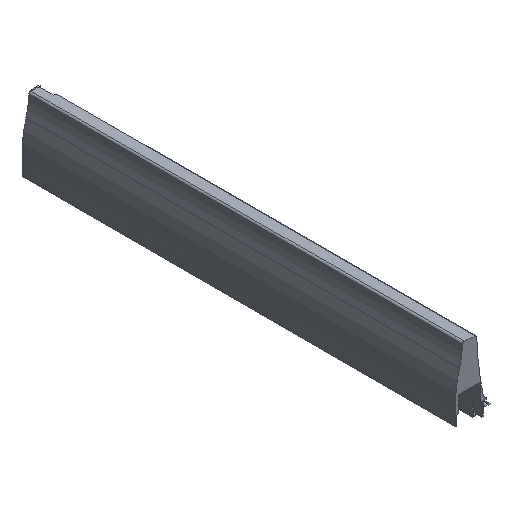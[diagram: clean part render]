
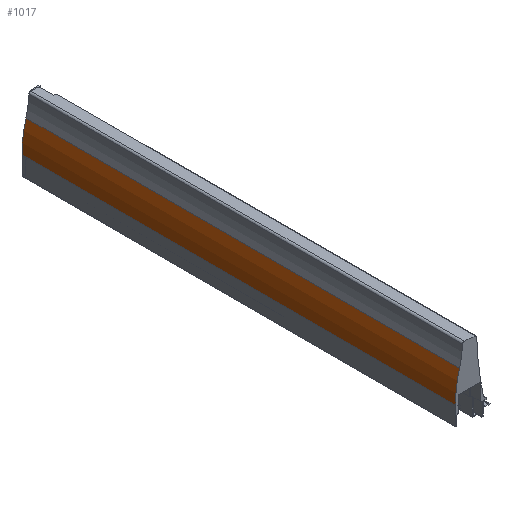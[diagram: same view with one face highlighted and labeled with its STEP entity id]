
A CAD part, isometric view. The second image highlights one B-rep face of the part: STEP entity #1017.
In plain terms, the highlighted cylindrical face has radius 130.3 mm (diameter 260.6 mm), a partial arc.
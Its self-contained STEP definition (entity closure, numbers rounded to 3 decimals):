
#109 = CARTESIAN_POINT ( 'NONE',  ( 0.401, 0., 26.255 ) ) ;
#110 = CARTESIAN_POINT ( 'NONE',  ( -4.1, 0., -7.695 ) ) ;
#134 = CARTESIAN_POINT ( 'NONE',  ( 0.401, 490., 26.255 ) ) ;
#303 = CARTESIAN_POINT ( 'NONE',  ( -4.1, 490., -7.695 ) ) ;
#428 = VERTEX_POINT ( 'NONE', #303 ) ;
#525 = VERTEX_POINT ( 'NONE', #134 ) ;
#639 = VERTEX_POINT ( 'NONE', #109 ) ;
#640 = VERTEX_POINT ( 'NONE', #110 ) ;
#694 = DIRECTION ( 'NONE',  ( -1., 0., 0. ) ) ;
#695 = DIRECTION ( 'NONE',  ( 0., -1., 0. ) ) ;
#696 = CARTESIAN_POINT ( 'NONE',  ( 126.2, 490., -7.695 ) ) ;
#850 = EDGE_LOOP ( 'NONE', ( #2458, #2459, #2460, #2461 ) ) ;
#1017 = ADVANCED_FACE ( 'NONE', ( #2994 ), #2997, .T. ) ;
#1393 = CARTESIAN_POINT ( 'NONE',  ( 126.2, 0., -7.695 ) ) ;
#1394 = DIRECTION ( 'NONE',  ( 0., -1., 0. ) ) ;
#1395 = DIRECTION ( 'NONE',  ( 1., 0., 0. ) ) ;
#1436 = CARTESIAN_POINT ( 'NONE',  ( 0.401, 490., 26.255 ) ) ;
#1439 = DIRECTION ( 'NONE',  ( 0., -1., 0. ) ) ;
#1515 = CARTESIAN_POINT ( 'NONE',  ( -4.1, 490., -7.695 ) ) ;
#1516 = DIRECTION ( 'NONE',  ( 0., -1., 0. ) ) ;
#1793 = CARTESIAN_POINT ( 'NONE',  ( 126.2, 490., -7.695 ) ) ;
#1796 = DIRECTION ( 'NONE',  ( 0., -1., 0. ) ) ;
#1797 = DIRECTION ( 'NONE',  ( 1., 0., 0. ) ) ;
#2458 = ORIENTED_EDGE ( 'NONE', *, *, #3864, .F. ) ;
#2459 = ORIENTED_EDGE ( 'NONE', *, *, #3894, .F. ) ;
#2460 = ORIENTED_EDGE ( 'NONE', *, *, #4158, .T. ) ;
#2461 = ORIENTED_EDGE ( 'NONE', *, *, #3954, .T. ) ;
#2994 = FACE_OUTER_BOUND ( 'NONE', #850, .T. ) ;
#2997 = CYLINDRICAL_SURFACE ( 'NONE', #4262, 130.3 ) ;
#3152 = CIRCLE ( 'NONE', #4435, 130.3 ) ;
#3183 = LINE ( 'NONE', #1436, #3186 ) ;
#3186 = VECTOR ( 'NONE', #1439, 1000. ) ;
#3253 = LINE ( 'NONE', #1515, #3254 ) ;
#3254 = VECTOR ( 'NONE', #1516, 1000. ) ;
#3496 = CIRCLE ( 'NONE', #4077, 130.3 ) ;
#3864 = EDGE_CURVE ( 'NONE', #639, #640, #3152, .T. ) ;
#3894 = EDGE_CURVE ( 'NONE', #525, #639, #3183, .T. ) ;
#3954 = EDGE_CURVE ( 'NONE', #428, #640, #3253, .T. ) ;
#4077 = AXIS2_PLACEMENT_3D ( 'NONE', #1793, #1796, #1797 ) ;
#4158 = EDGE_CURVE ( 'NONE', #525, #428, #3496, .T. ) ;
#4262 = AXIS2_PLACEMENT_3D ( 'NONE', #696, #695, #694 ) ;
#4435 = AXIS2_PLACEMENT_3D ( 'NONE', #1393, #1394, #1395 ) ;
